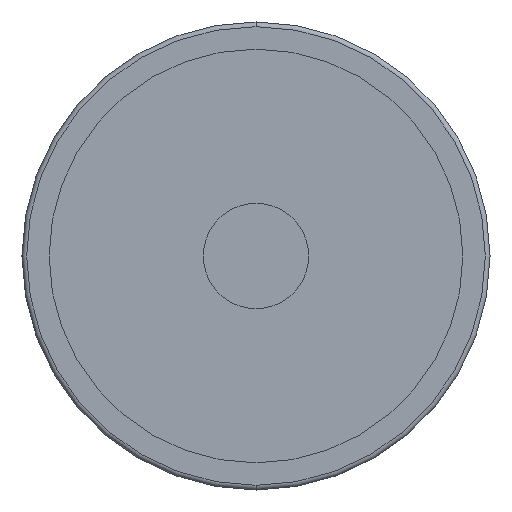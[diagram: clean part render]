
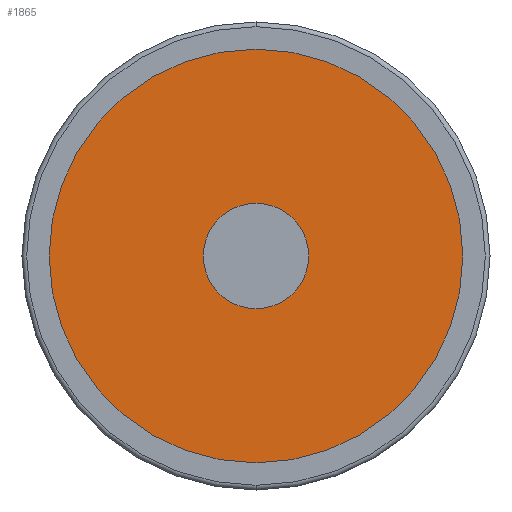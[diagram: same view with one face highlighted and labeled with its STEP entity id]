
A CAD part, front view. The second image highlights one B-rep face of the part: STEP entity #1865.
In plain terms, the highlighted planar face has unit normal (0, -1, 0).
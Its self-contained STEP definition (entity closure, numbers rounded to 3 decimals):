
#64 = ORIENTED_EDGE ( 'NONE', *, *, #615, .T. ) ;
#78 = DIRECTION ( 'NONE',  ( 1., 0., 0. ) ) ;
#124 = ORIENTED_EDGE ( 'NONE', *, *, #1233, .T. ) ;
#125 = FACE_OUTER_BOUND ( 'NONE', #1423, .T. ) ;
#224 = CIRCLE ( 'NONE', #847, 10.25 ) ;
#300 = EDGE_CURVE ( 'NONE', #3071, #3099, #741, .T. ) ;
#365 = EDGE_CURVE ( 'NONE', #3099, #3071, #224, .T. ) ;
#425 = DIRECTION ( 'NONE',  ( 0., -1., 0. ) ) ;
#571 = VERTEX_POINT ( 'NONE', #730 ) ;
#615 = EDGE_CURVE ( 'NONE', #1648, #571, #2569, .T. ) ;
#695 = DIRECTION ( 'NONE',  ( 0., -1., 0. ) ) ;
#704 = CARTESIAN_POINT ( 'NONE',  ( 0., 4.5, 0. ) ) ;
#730 = CARTESIAN_POINT ( 'NONE',  ( 44.3, 4.5, 0. ) ) ;
#741 = CIRCLE ( 'NONE', #3053, 10.25 ) ;
#847 = AXIS2_PLACEMENT_3D ( 'NONE', #2424, #1218, #915 ) ;
#856 = DIRECTION ( 'NONE',  ( 0., -1., 0. ) ) ;
#915 = DIRECTION ( 'NONE',  ( 1., 0., 0. ) ) ;
#996 = AXIS2_PLACEMENT_3D ( 'NONE', #2947, #695, #1697 ) ;
#1197 = AXIS2_PLACEMENT_3D ( 'NONE', #2666, #425, #78 ) ;
#1218 = DIRECTION ( 'NONE',  ( 0., -1., 0. ) ) ;
#1233 = EDGE_CURVE ( 'NONE', #571, #1648, #2444, .T. ) ;
#1368 = PLANE ( 'NONE',  #3116 ) ;
#1389 = DIRECTION ( 'NONE',  ( 1., 0., 0. ) ) ;
#1423 = EDGE_LOOP ( 'NONE', ( #64, #124 ) ) ;
#1612 = FACE_BOUND ( 'NONE', #3063, .T. ) ;
#1643 = DIRECTION ( 'NONE',  ( 0., -1., 0. ) ) ;
#1648 = VERTEX_POINT ( 'NONE', #3080 ) ;
#1697 = DIRECTION ( 'NONE',  ( 1., 0., 0. ) ) ;
#1865 = ADVANCED_FACE ( 'NONE', ( #125, #1612 ), #1368, .T. ) ;
#1867 = DIRECTION ( 'NONE',  ( 1., 0., 0. ) ) ;
#2252 = CARTESIAN_POINT ( 'NONE',  ( -10.25, 4.5, 0. ) ) ;
#2366 = CARTESIAN_POINT ( 'NONE',  ( -44.3, 4.5, 0. ) ) ;
#2424 = CARTESIAN_POINT ( 'NONE',  ( 0., 4.5, 0. ) ) ;
#2444 = CIRCLE ( 'NONE', #1197, 44.3 ) ;
#2569 = CIRCLE ( 'NONE', #996, 44.3 ) ;
#2666 = CARTESIAN_POINT ( 'NONE',  ( 0., 4.5, 0. ) ) ;
#2910 = ORIENTED_EDGE ( 'NONE', *, *, #365, .F. ) ;
#2947 = CARTESIAN_POINT ( 'NONE',  ( 0., 4.5, 0. ) ) ;
#2983 = CARTESIAN_POINT ( 'NONE',  ( 10.25, 4.5, 0. ) ) ;
#3053 = AXIS2_PLACEMENT_3D ( 'NONE', #704, #856, #1389 ) ;
#3063 = EDGE_LOOP ( 'NONE', ( #2910, #3139 ) ) ;
#3071 = VERTEX_POINT ( 'NONE', #2252 ) ;
#3080 = CARTESIAN_POINT ( 'NONE',  ( -44.3, 4.5, 0. ) ) ;
#3099 = VERTEX_POINT ( 'NONE', #2983 ) ;
#3116 = AXIS2_PLACEMENT_3D ( 'NONE', #2366, #1643, #1867 ) ;
#3139 = ORIENTED_EDGE ( 'NONE', *, *, #300, .F. ) ;
